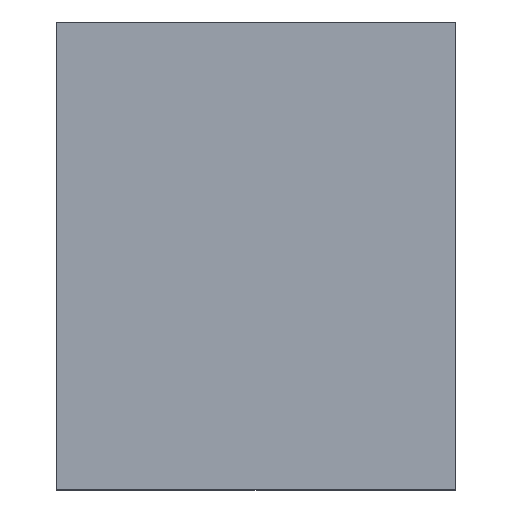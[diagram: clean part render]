
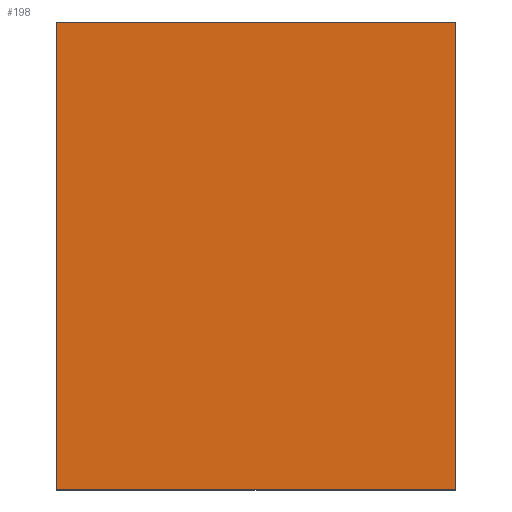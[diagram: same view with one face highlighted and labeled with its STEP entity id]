
A CAD part, top view. The second image highlights one B-rep face of the part: STEP entity #198.
In plain terms, the highlighted planar face has unit normal (0, 0, 1).
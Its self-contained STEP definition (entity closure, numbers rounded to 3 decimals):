
#8 = EDGE_CURVE ( 'NONE', #31, #37, #169, .T. ) ;
#9 = EDGE_CURVE ( 'NONE', #37, #39, #136, .T. ) ;
#10 = EDGE_CURVE ( 'NONE', #34, #31, #176, .T. ) ;
#15 = EDGE_CURVE ( 'NONE', #39, #34, #134, .T. ) ;
#19 = AXIS2_PLACEMENT_3D ( 'NONE', #93, #111, #75 ) ;
#30 = DIRECTION ( 'NONE',  ( 0., 1., 0. ) ) ;
#31 = VERTEX_POINT ( 'NONE', #74 ) ;
#34 = VERTEX_POINT ( 'NONE', #96 ) ;
#37 = VERTEX_POINT ( 'NONE', #41 ) ;
#39 = VERTEX_POINT ( 'NONE', #87 ) ;
#40 = CARTESIAN_POINT ( 'NONE',  ( 204., 0., 6. ) ) ;
#41 = CARTESIAN_POINT ( 'NONE',  ( 204., 479., 6. ) ) ;
#42 = CARTESIAN_POINT ( 'NONE',  ( -204., 479., 6. ) ) ;
#45 = CARTESIAN_POINT ( 'NONE',  ( -204., 0., 6. ) ) ;
#47 = DIRECTION ( 'NONE',  ( 1., 0., 0. ) ) ;
#48 = CARTESIAN_POINT ( 'NONE',  ( -204., 0., 6. ) ) ;
#64 = DIRECTION ( 'NONE',  ( -1., 0., 0. ) ) ;
#74 = CARTESIAN_POINT ( 'NONE',  ( 204., 0., 6. ) ) ;
#75 = DIRECTION ( 'NONE',  ( 0., 1., 0. ) ) ;
#78 = DIRECTION ( 'NONE',  ( 0., -1., 0. ) ) ;
#80 = PLANE ( 'NONE',  #19 ) ;
#87 = CARTESIAN_POINT ( 'NONE',  ( -204., 479., 6. ) ) ;
#93 = CARTESIAN_POINT ( 'NONE',  ( -204., 479., 6. ) ) ;
#96 = CARTESIAN_POINT ( 'NONE',  ( -204., 0., 6. ) ) ;
#111 = DIRECTION ( 'NONE',  ( 0., 0., -1. ) ) ;
#118 = EDGE_LOOP ( 'NONE', ( #147, #140, #154, #173 ) ) ;
#127 = VECTOR ( 'NONE', #78, 1000. ) ;
#128 = VECTOR ( 'NONE', #64, 1000. ) ;
#134 = LINE ( 'NONE', #45, #127 ) ;
#136 = LINE ( 'NONE', #42, #128 ) ;
#140 = ORIENTED_EDGE ( 'NONE', *, *, #10, .T. ) ;
#143 = VECTOR ( 'NONE', #30, 1000. ) ;
#147 = ORIENTED_EDGE ( 'NONE', *, *, #15, .T. ) ;
#154 = ORIENTED_EDGE ( 'NONE', *, *, #8, .T. ) ;
#169 = LINE ( 'NONE', #40, #143 ) ;
#171 = FACE_OUTER_BOUND ( 'NONE', #118, .T. ) ;
#173 = ORIENTED_EDGE ( 'NONE', *, *, #9, .T. ) ;
#176 = LINE ( 'NONE', #48, #179 ) ;
#179 = VECTOR ( 'NONE', #47, 1000. ) ;
#198 = ADVANCED_FACE ( 'NONE', ( #171 ), #80, .F. ) ;
